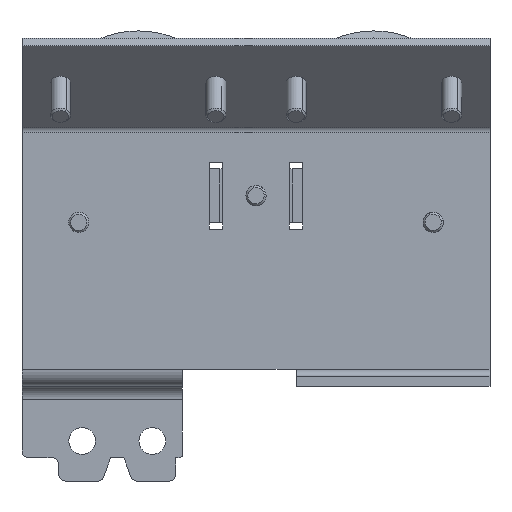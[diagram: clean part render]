
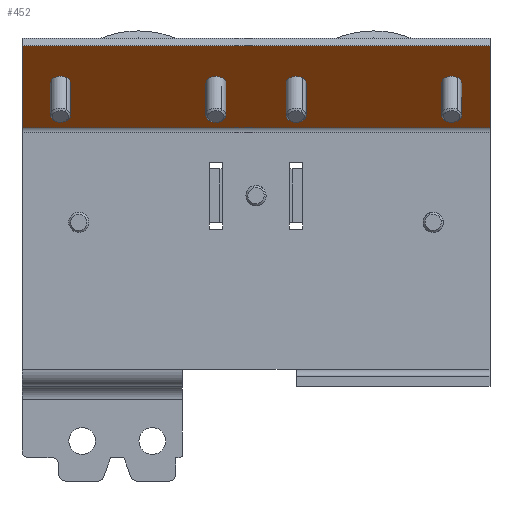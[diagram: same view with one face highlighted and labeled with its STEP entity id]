
A CAD part, front view. The second image highlights one B-rep face of the part: STEP entity #452.
In plain terms, the highlighted planar face has unit normal (0, -0.707, -0.707).
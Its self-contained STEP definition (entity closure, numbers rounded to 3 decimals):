
#9 = DIRECTION ( 'NONE',  ( 0., -0.707, 0.707 ) ) ;
#42 = EDGE_LOOP ( 'NONE', ( #1703, #4155 ) ) ;
#46 = DIRECTION ( 'NONE',  ( 0., 0.707, 0.707 ) ) ;
#163 = CARTESIAN_POINT ( 'NONE',  ( 70., 11.207, -13.328 ) ) ;
#216 = ORIENTED_EDGE ( 'NONE', *, *, #2818, .T. ) ;
#264 = VERTEX_POINT ( 'NONE', #2488 ) ;
#265 = AXIS2_PLACEMENT_3D ( 'NONE', #4315, #2093, #4682 ) ;
#364 = VERTEX_POINT ( 'NONE', #3317 ) ;
#452 = ADVANCED_FACE ( 'NONE', ( #3559, #3668, #1595, #592, #4412 ), #2595, .F. ) ;
#476 = EDGE_CURVE ( 'NONE', #1325, #3263, #1355, .T. ) ;
#481 = AXIS2_PLACEMENT_3D ( 'NONE', #2252, #46, #2633 ) ;
#520 = DIRECTION ( 'NONE',  ( -1., 0., 0. ) ) ;
#592 = FACE_BOUND ( 'NONE', #3289, .T. ) ;
#593 = ORIENTED_EDGE ( 'NONE', *, *, #872, .T. ) ;
#720 = ORIENTED_EDGE ( 'NONE', *, *, #3772, .T. ) ;
#778 = DIRECTION ( 'NONE',  ( 0., 0.707, 0.707 ) ) ;
#782 = DIRECTION ( 'NONE',  ( 0., 0.707, -0.707 ) ) ;
#872 = EDGE_CURVE ( 'NONE', #2935, #1529, #2443, .T. ) ;
#965 = CARTESIAN_POINT ( 'NONE',  ( 41., 3.536, -5.657 ) ) ;
#1000 = ORIENTED_EDGE ( 'NONE', *, *, #2073, .T. ) ;
#1023 = CARTESIAN_POINT ( 'NONE',  ( 0., -1.061, -1.061 ) ) ;
#1024 = DIRECTION ( 'NONE',  ( -1., 0., 0. ) ) ;
#1084 = CARTESIAN_POINT ( 'NONE',  ( 64.25, 4.596, -6.718 ) ) ;
#1144 = ORIENTED_EDGE ( 'NONE', *, *, #2282, .F. ) ;
#1170 = VECTOR ( 'NONE', #782, 1000. ) ;
#1214 = CARTESIAN_POINT ( 'NONE',  ( 64.25, 3.536, -5.657 ) ) ;
#1312 = VECTOR ( 'NONE', #520, 1000. ) ;
#1325 = VERTEX_POINT ( 'NONE', #2709 ) ;
#1355 = CIRCLE ( 'NONE', #3187, 1.5 ) ;
#1357 = AXIS2_PLACEMENT_3D ( 'NONE', #3763, #1565, #4138 ) ;
#1422 = VERTEX_POINT ( 'NONE', #965 ) ;
#1465 = DIRECTION ( 'NONE',  ( 0., -0.707, 0.707 ) ) ;
#1507 = CARTESIAN_POINT ( 'NONE',  ( 70., 11.207, -13.328 ) ) ;
#1526 = VERTEX_POINT ( 'NONE', #1023 ) ;
#1529 = VERTEX_POINT ( 'NONE', #3257 ) ;
#1565 = DIRECTION ( 'NONE',  ( 0., 0.707, 0.707 ) ) ;
#1595 = FACE_BOUND ( 'NONE', #2260, .T. ) ;
#1703 = ORIENTED_EDGE ( 'NONE', *, *, #476, .T. ) ;
#1708 = EDGE_CURVE ( 'NONE', #3388, #1422, #4090, .T. ) ;
#1720 = ORIENTED_EDGE ( 'NONE', *, *, #2370, .F. ) ;
#1721 = CIRCLE ( 'NONE', #2124, 1.5 ) ;
#1765 = VERTEX_POINT ( 'NONE', #1214 ) ;
#1857 = DIRECTION ( 'NONE',  ( 0., 0.707, 0.707 ) ) ;
#1911 = CARTESIAN_POINT ( 'NONE',  ( 29., 4.596, -6.718 ) ) ;
#1927 = CIRCLE ( 'NONE', #2672, 1.5 ) ;
#2029 = ORIENTED_EDGE ( 'NONE', *, *, #2614, .T. ) ;
#2073 = EDGE_CURVE ( 'NONE', #4667, #1765, #1721, .T. ) ;
#2093 = DIRECTION ( 'NONE',  ( 0., 0.707, 0.707 ) ) ;
#2106 = VECTOR ( 'NONE', #1024, 1000. ) ;
#2124 = AXIS2_PLACEMENT_3D ( 'NONE', #1084, #3675, #1465 ) ;
#2138 = EDGE_LOOP ( 'NONE', ( #720, #1720, #1144, #2029 ) ) ;
#2148 = LINE ( 'NONE', #3009, #1170 ) ;
#2192 = DIRECTION ( 'NONE',  ( 0., 0.707, 0.707 ) ) ;
#2225 = DIRECTION ( 'NONE',  ( 0., 0.707, 0.707 ) ) ;
#2252 = CARTESIAN_POINT ( 'NONE',  ( 41., 4.596, -6.718 ) ) ;
#2260 = EDGE_LOOP ( 'NONE', ( #216, #1000 ) ) ;
#2282 = EDGE_CURVE ( 'NONE', #264, #4429, #3743, .T. ) ;
#2283 = DIRECTION ( 'NONE',  ( 0., 0.707, -0.707 ) ) ;
#2304 = CARTESIAN_POINT ( 'NONE',  ( 29., 5.657, -7.778 ) ) ;
#2315 = CARTESIAN_POINT ( 'NONE',  ( 64.25, 5.657, -7.778 ) ) ;
#2367 = CARTESIAN_POINT ( 'NONE',  ( 41., 5.657, -7.778 ) ) ;
#2370 = EDGE_CURVE ( 'NONE', #4429, #364, #4257, .T. ) ;
#2443 = CIRCLE ( 'NONE', #265, 1.5 ) ;
#2488 = CARTESIAN_POINT ( 'NONE',  ( 70., -1.061, -1.061 ) ) ;
#2595 = PLANE ( 'NONE',  #2684 ) ;
#2614 = EDGE_CURVE ( 'NONE', #264, #1526, #4078, .T. ) ;
#2633 = DIRECTION ( 'NONE',  ( 0., -0.707, 0.707 ) ) ;
#2672 = AXIS2_PLACEMENT_3D ( 'NONE', #1911, #4501, #2283 ) ;
#2684 = AXIS2_PLACEMENT_3D ( 'NONE', #1507, #1857, #4442 ) ;
#2695 = AXIS2_PLACEMENT_3D ( 'NONE', #4400, #2192, #4635 ) ;
#2696 = EDGE_CURVE ( 'NONE', #1529, #2935, #2874, .T. ) ;
#2709 = CARTESIAN_POINT ( 'NONE',  ( 29., 3.536, -5.657 ) ) ;
#2726 = EDGE_CURVE ( 'NONE', #1422, #3388, #4601, .T. ) ;
#2818 = EDGE_CURVE ( 'NONE', #1765, #4667, #3287, .T. ) ;
#2874 = CIRCLE ( 'NONE', #2695, 1.5 ) ;
#2880 = VECTOR ( 'NONE', #4166, 1000. ) ;
#2891 = CARTESIAN_POINT ( 'NONE',  ( 70., -1.061, -1.061 ) ) ;
#2935 = VERTEX_POINT ( 'NONE', #4218 ) ;
#3008 = CARTESIAN_POINT ( 'NONE',  ( 29., 4.596, -6.718 ) ) ;
#3009 = CARTESIAN_POINT ( 'NONE',  ( 0., 11.207, -13.328 ) ) ;
#3187 = AXIS2_PLACEMENT_3D ( 'NONE', #3008, #778, #3380 ) ;
#3257 = CARTESIAN_POINT ( 'NONE',  ( 5.75, 5.657, -7.778 ) ) ;
#3263 = VERTEX_POINT ( 'NONE', #2304 ) ;
#3287 = CIRCLE ( 'NONE', #1357, 1.5 ) ;
#3289 = EDGE_LOOP ( 'NONE', ( #3569, #4055 ) ) ;
#3317 = CARTESIAN_POINT ( 'NONE',  ( 0., 11.207, -13.328 ) ) ;
#3380 = DIRECTION ( 'NONE',  ( 0., 0.707, -0.707 ) ) ;
#3388 = VERTEX_POINT ( 'NONE', #2367 ) ;
#3438 = CARTESIAN_POINT ( 'NONE',  ( 70., 11.207, -13.328 ) ) ;
#3559 = FACE_BOUND ( 'NONE', #42, .T. ) ;
#3569 = ORIENTED_EDGE ( 'NONE', *, *, #2726, .T. ) ;
#3668 = FACE_BOUND ( 'NONE', #3740, .T. ) ;
#3669 = ORIENTED_EDGE ( 'NONE', *, *, #2696, .T. ) ;
#3675 = DIRECTION ( 'NONE',  ( 0., 0.707, 0.707 ) ) ;
#3740 = EDGE_LOOP ( 'NONE', ( #593, #3669 ) ) ;
#3743 = LINE ( 'NONE', #3438, #2880 ) ;
#3763 = CARTESIAN_POINT ( 'NONE',  ( 64.25, 4.596, -6.718 ) ) ;
#3772 = EDGE_CURVE ( 'NONE', #1526, #364, #2148, .T. ) ;
#3823 = EDGE_CURVE ( 'NONE', #3263, #1325, #1927, .T. ) ;
#3936 = CARTESIAN_POINT ( 'NONE',  ( 70., 11.207, -13.328 ) ) ;
#4055 = ORIENTED_EDGE ( 'NONE', *, *, #1708, .T. ) ;
#4078 = LINE ( 'NONE', #2891, #2106 ) ;
#4090 = CIRCLE ( 'NONE', #481, 1.5 ) ;
#4138 = DIRECTION ( 'NONE',  ( 0., -0.707, 0.707 ) ) ;
#4155 = ORIENTED_EDGE ( 'NONE', *, *, #3823, .T. ) ;
#4166 = DIRECTION ( 'NONE',  ( 0., 0.707, -0.707 ) ) ;
#4167 = AXIS2_PLACEMENT_3D ( 'NONE', #4438, #2225, #9 ) ;
#4218 = CARTESIAN_POINT ( 'NONE',  ( 5.75, 3.536, -5.657 ) ) ;
#4257 = LINE ( 'NONE', #163, #1312 ) ;
#4315 = CARTESIAN_POINT ( 'NONE',  ( 5.75, 4.596, -6.718 ) ) ;
#4400 = CARTESIAN_POINT ( 'NONE',  ( 5.75, 4.596, -6.718 ) ) ;
#4412 = FACE_OUTER_BOUND ( 'NONE', #2138, .T. ) ;
#4429 = VERTEX_POINT ( 'NONE', #3936 ) ;
#4438 = CARTESIAN_POINT ( 'NONE',  ( 41., 4.596, -6.718 ) ) ;
#4442 = DIRECTION ( 'NONE',  ( 0., -0.707, 0.707 ) ) ;
#4501 = DIRECTION ( 'NONE',  ( 0., 0.707, 0.707 ) ) ;
#4601 = CIRCLE ( 'NONE', #4167, 1.5 ) ;
#4635 = DIRECTION ( 'NONE',  ( 0., 0.707, -0.707 ) ) ;
#4667 = VERTEX_POINT ( 'NONE', #2315 ) ;
#4682 = DIRECTION ( 'NONE',  ( 0., 0.707, -0.707 ) ) ;
